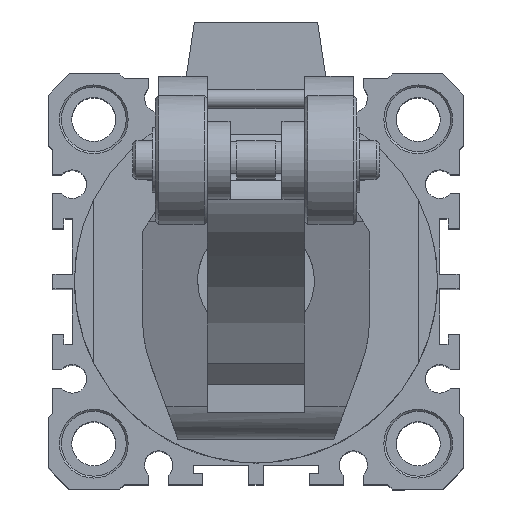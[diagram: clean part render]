
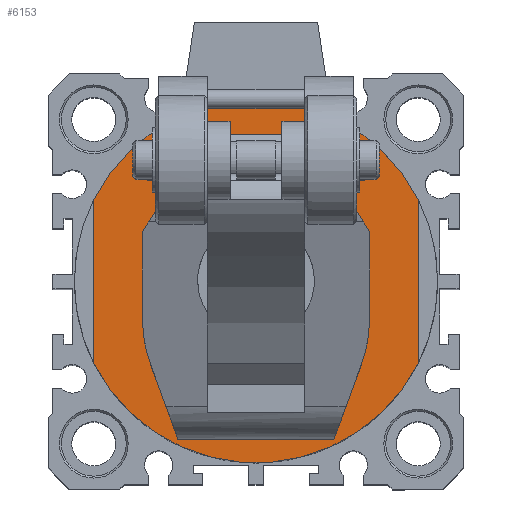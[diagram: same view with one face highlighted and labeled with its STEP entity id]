
A CAD part, top view. The second image highlights one B-rep face of the part: STEP entity #6153.
In plain terms, the highlighted planar face has unit normal (0, 0, 1).
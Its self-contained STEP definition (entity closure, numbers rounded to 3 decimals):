
#4986=CARTESIAN_POINT('',(0.598,18.555,107.));
#4987=VERTEX_POINT('',#4986);
#4988=CARTESIAN_POINT('',(0.598,1.555,107.));
#4989=DIRECTION('',(0.0,0.0,-1.0));
#4990=DIRECTION('',(0.0,1.0,0.0));
#4991=AXIS2_PLACEMENT_3D('',#4988,#4989,#4990);
#4992=CIRCLE('',#4991,17.);
#4993=EDGE_CURVE('',#4987,#4987,#4992,.T.);
#5076=CARTESIAN_POINT('',(25.598,-11.054,107.));
#5077=VERTEX_POINT('',#5076);
#5084=CARTESIAN_POINT('',(-24.402,-11.054,107.));
#5085=VERTEX_POINT('',#5084);
#5086=CARTESIAN_POINT('',(0.598,1.555,107.));
#5087=DIRECTION('',(0.0,0.0,-1.0));
#5088=DIRECTION('',(0.0,1.0,0.0));
#5089=AXIS2_PLACEMENT_3D('',#5086,#5087,#5088);
#5090=CIRCLE('',#5089,28.);
#5091=EDGE_CURVE('',#5077,#5085,#5090,.T.);
#5110=CARTESIAN_POINT('',(-24.402,14.165,107.));
#5111=VERTEX_POINT('',#5110);
#5118=CARTESIAN_POINT('',(25.598,14.165,107.));
#5119=VERTEX_POINT('',#5118);
#5120=CARTESIAN_POINT('',(0.598,1.555,107.));
#5121=DIRECTION('',(0.0,0.0,-1.0));
#5122=DIRECTION('',(0.0,1.0,0.0));
#5123=AXIS2_PLACEMENT_3D('',#5120,#5121,#5122);
#5124=CIRCLE('',#5123,28.);
#5125=EDGE_CURVE('',#5111,#5119,#5124,.T.);
#6129=CARTESIAN_POINT('',(0.598,24.055,107.));
#6130=DIRECTION('',(0.0,0.0,1.0));
#6131=DIRECTION('',(1.0,0.0,0.0));
#6132=AXIS2_PLACEMENT_3D('',#6129,#6130,#6131);
#6133=PLANE('',#6132);
#6134=CARTESIAN_POINT('',(25.598,-11.054,107.));
#6135=DIRECTION('',(0.0,1.0,0.0));
#6136=VECTOR('',#6135,25.219);
#6137=LINE('',#6134,#6136);
#6138=EDGE_CURVE('',#5077,#5119,#6137,.T.);
#6139=ORIENTED_EDGE('',*,*,#6138,.T.);
#6140=ORIENTED_EDGE('',*,*,#5125,.F.);
#6141=CARTESIAN_POINT('',(-24.402,14.165,107.));
#6142=DIRECTION('',(0.0,-1.0,0.0));
#6143=VECTOR('',#6142,25.219);
#6144=LINE('',#6141,#6143);
#6145=EDGE_CURVE('',#5111,#5085,#6144,.T.);
#6146=ORIENTED_EDGE('',*,*,#6145,.T.);
#6147=ORIENTED_EDGE('',*,*,#5091,.F.);
#6148=EDGE_LOOP('',(#6139,#6140,#6146,#6147));
#6149=FACE_OUTER_BOUND('',#6148,.T.);
#6150=ORIENTED_EDGE('',*,*,#4993,.T.);
#6151=EDGE_LOOP('',(#6150));
#6152=FACE_BOUND('',#6151,.T.);
#6153=ADVANCED_FACE('',(#6149,#6152),#6133,.T.);
